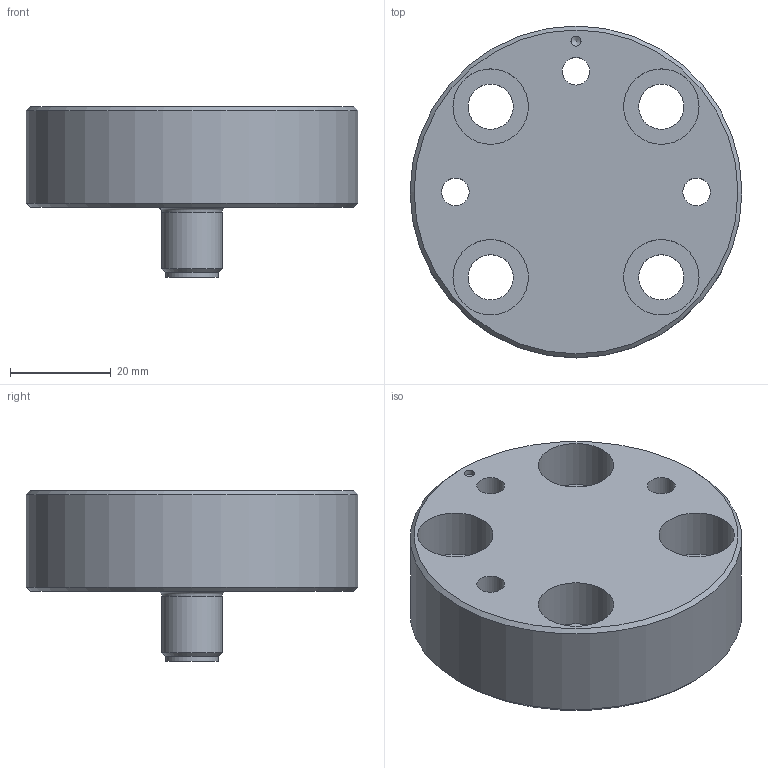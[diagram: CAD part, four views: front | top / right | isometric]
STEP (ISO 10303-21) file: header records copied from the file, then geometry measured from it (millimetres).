
FILE_DESCRIPTION((''),'2;1');
FILE_NAME('K:\Daten\pras5-ax.stp','2010-02-09T12:13:46',('kamp'),(''),'Autodesk Inventor 2008','Autodesk Inventor 2008','');
FILE_SCHEMA(('AUTOMOTIVE_DESIGN { 1 0 10303 214 1 1 1 1 }'));
Length unit declared in the file: millimetre
Products named in the file (1): Bauteil6
Bounding box: 66 x 66 x 34 mm (x, y, z)
Volume: 57408 mm3; surface area: 15312.3 mm2
Topology: 1 solids, 1 shells, 66 faces, 161 edges, 102 vertices
Faces by surface type: bspline 24, plane 20, cylinder 14, sphere 5, cone 3
Full cylindrical faces by diameter (mm): 1 x5, 8.3 x1, 10.4 x1, 12 x1, 66 x1
Entity records: 1977 total; most frequent: CARTESIAN_POINT 602, DIRECTION 264, ORIENTED_EDGE 218, EDGE_LOOP 124, AXIS2_PLACEMENT_3D 112, EDGE_CURVE 109, VERTEX_POINT 89, CIRCLE 69
